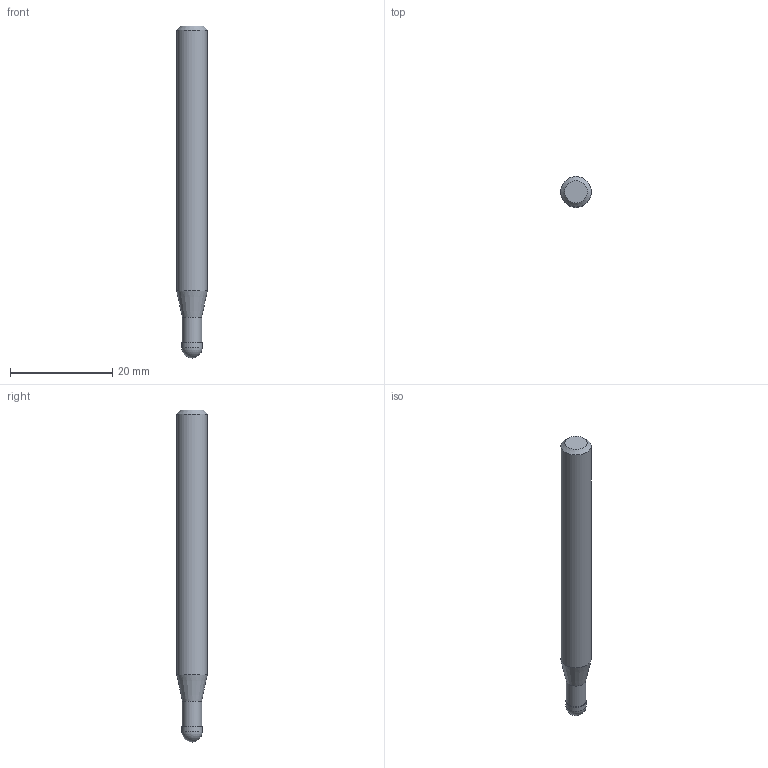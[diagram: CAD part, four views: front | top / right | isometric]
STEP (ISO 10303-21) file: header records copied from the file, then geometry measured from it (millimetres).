
FILE_DESCRIPTION((''),'2;1');
FILE_NAME('C:\Users\nsx150\AppData\Local\Temp\Mastercam 2021\I4OPY4JDSB\TEMP.step','2022-11-18T16:27:54',(''),(''),'STEP Write','Mastercam 2021 ... CNC Software, Inc.','');
FILE_SCHEMA(('AUTOMOTIVE_DESIGN'));
Length unit declared in the file: millimetre
Products named in the file (1): None
Bounding box: 6 x 6 x 65 mm (x, y, z)
Volume: 1645.1 mm3; surface area: 1198.2 mm2
Topology: 2 solids, 2 shells, 9 faces, 14 edges, 8 vertices
Faces by surface type: plane 3, cylinder 3, cone 2, sphere 1
Full cylindrical faces by diameter (mm): 3.8 x1, 4 x1, 6 x1
Entity records: 211 total; most frequent: DIRECTION 36, CARTESIAN_POINT 25, AXIS2_PLACEMENT_3D 18, ORIENTED_EDGE 14, EDGE_LOOP 14, STYLED_ITEM 12, ADVANCED_FACE 9, FACE_BOUND 8
